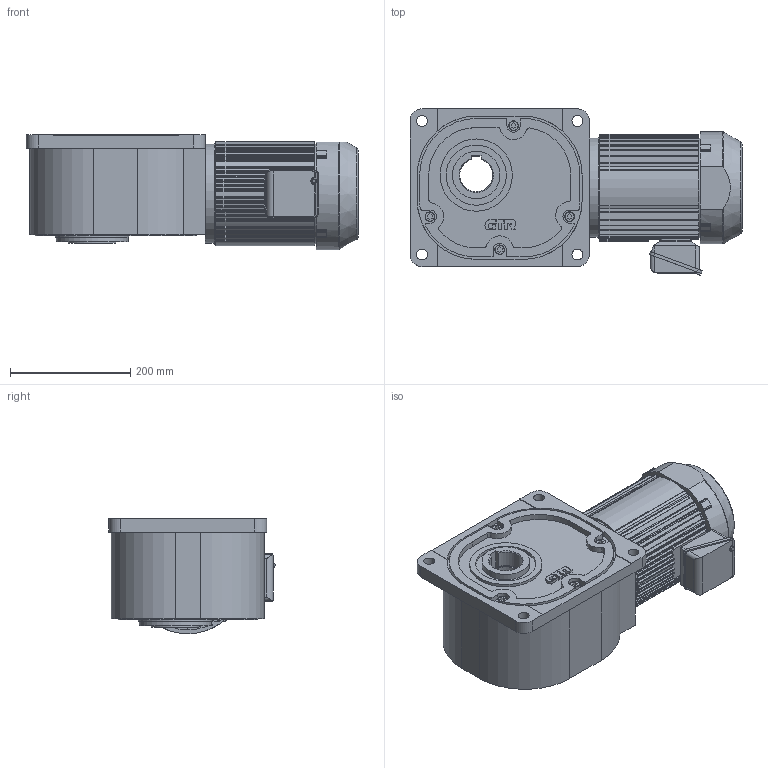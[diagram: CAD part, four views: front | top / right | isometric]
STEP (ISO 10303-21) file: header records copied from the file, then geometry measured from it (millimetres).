
FILE_DESCRIPTION( ( 'STEP AP203' ), ' ' );
FILE_NAME( 'p:/temp/worker_1/284_1908/app_90_12017041201523174602579260eae72_000000_00_00_000000/format_1/FS55N5L-IPM150NTNNone.stp', '2017-04-11T23:52:34', ( '' ), ( '' ), ' ', 'PARTsolutions', ' ' );
FILE_SCHEMA( ( 'CONFIG_CONTROL_DESIGN' ) );
Length unit declared in the file: millimetre
Products named in the file (5): FS55N5L-IPM150NTNNone; _FS55; HI_T150; HI_1522MW; _T-BOX010
Assembly tree (4 placements, depth 2):
  FS55N5L-IPM150NTNNone
    _FS55
    HI_T150
    HI_1522MW
    _T-BOX010
Bounding box: 551.5 x 276.02 x 192 mm (x, y, z)
Volume: 16642325.4 mm3; surface area: 743556.1 mm2
Topology: 4 solids, 4 shells, 878 faces, 2381 edges, 1581 vertices
Faces by surface type: cylinder 455, plane 414, torus 6, cone 3
Full cylindrical faces by diameter (mm): 4.8 x4, 6.4 x1, 10.2 x4, 11 x1, 16 x4, 18 x4, 27 x1, 79 x2, 100 x2, 120 x2, 122 x1, 165 x1, 167 x2
Entity records: 28043 total; most frequent: CARTESIAN_POINT 5051, DIRECTION 4985, ORIENTED_EDGE 4672, EDGE_CURVE 2336, AXIS2_PLACEMENT_3D 1801, VERTEX_POINT 1571, LINE 1383, VECTOR 1383
